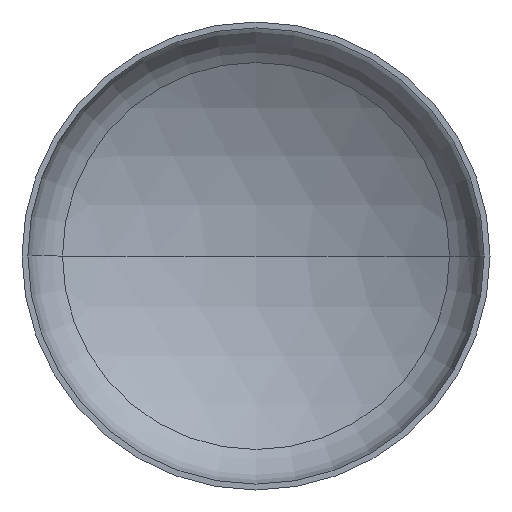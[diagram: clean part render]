
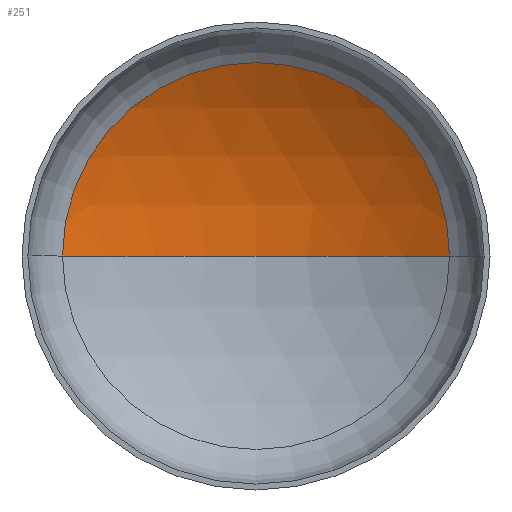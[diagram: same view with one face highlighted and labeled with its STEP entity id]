
A CAD part, front view. The second image highlights one B-rep face of the part: STEP entity #251.
In plain terms, the highlighted spherical face has radius 1280 mm.
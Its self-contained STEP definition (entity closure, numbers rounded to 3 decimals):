
#8 = VERTEX_POINT ( 'NONE', #291 ) ;
#9 = ORIENTED_EDGE ( 'NONE', *, *, #195, .T. ) ;
#12 = EDGE_LOOP ( 'NONE', ( #22, #57, #9 ) ) ;
#22 = ORIENTED_EDGE ( 'NONE', *, *, #238, .F. ) ;
#40 = CARTESIAN_POINT ( 'NONE',  ( 0., -826.002, 0. ) ) ;
#52 = AXIS2_PLACEMENT_3D ( 'NONE', #40, #250, #402 ) ;
#57 = ORIENTED_EDGE ( 'NONE', *, *, #219, .T. ) ;
#62 = AXIS2_PLACEMENT_3D ( 'NONE', #203, #204, #386 ) ;
#68 = AXIS2_PLACEMENT_3D ( 'NONE', #202, #200, #199 ) ;
#75 = VERTEX_POINT ( 'NONE', #255 ) ;
#78 = AXIS2_PLACEMENT_3D ( 'NONE', #269, #267, #266 ) ;
#84 = VERTEX_POINT ( 'NONE', #339 ) ;
#177 = FACE_OUTER_BOUND ( 'NONE', #12, .T. ) ;
#187 = CIRCLE ( 'NONE', #78, 661.643 ) ;
#195 = EDGE_CURVE ( 'NONE', #8, #75, #187, .T. ) ;
#199 = DIRECTION ( 'NONE',  ( -1., 0., 0. ) ) ;
#200 = DIRECTION ( 'NONE',  ( 0., 0., -1. ) ) ;
#202 = CARTESIAN_POINT ( 'NONE',  ( 0., -826.002, 0. ) ) ;
#203 = CARTESIAN_POINT ( 'NONE',  ( 0., -826.002, 0. ) ) ;
#204 = DIRECTION ( 'NONE',  ( 0., 0., 1. ) ) ;
#219 = EDGE_CURVE ( 'NONE', #84, #8, #245, .T. ) ;
#238 = EDGE_CURVE ( 'NONE', #84, #75, #359, .T. ) ;
#241 = SPHERICAL_SURFACE ( 'NONE', #52, 1280. ) ;
#245 = CIRCLE ( 'NONE', #68, 1280. ) ;
#250 = DIRECTION ( 'NONE',  ( 0., 0., -1. ) ) ;
#251 = ADVANCED_FACE ( 'NONE', ( #177 ), #241, .F. ) ;
#255 = CARTESIAN_POINT ( 'NONE',  ( -661.643, 269.73, 0. ) ) ;
#266 = DIRECTION ( 'NONE',  ( 1., 0., 0. ) ) ;
#267 = DIRECTION ( 'NONE',  ( 0., -1., 0. ) ) ;
#269 = CARTESIAN_POINT ( 'NONE',  ( 0., 269.73, 0. ) ) ;
#291 = CARTESIAN_POINT ( 'NONE',  ( 661.643, 269.73, 0. ) ) ;
#339 = CARTESIAN_POINT ( 'NONE',  ( 0., 453.998, 0. ) ) ;
#359 = CIRCLE ( 'NONE', #62, 1280. ) ;
#386 = DIRECTION ( 'NONE',  ( 1., 0., 0. ) ) ;
#402 = DIRECTION ( 'NONE',  ( -1., 0., 0. ) ) ;
